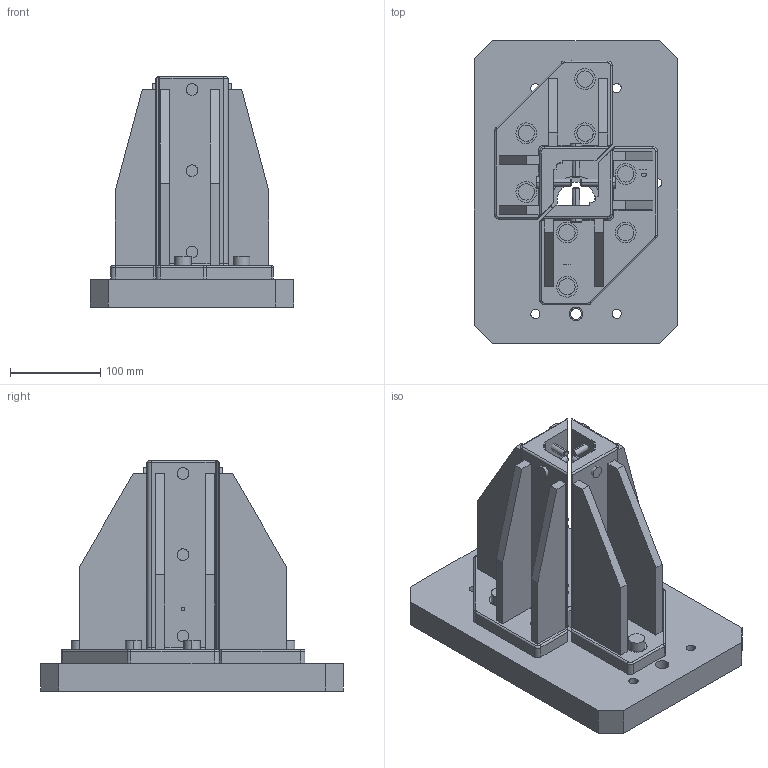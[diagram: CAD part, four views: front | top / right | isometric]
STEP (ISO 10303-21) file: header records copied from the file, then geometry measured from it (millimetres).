
FILE_DESCRIPTION(('STEP AP214'),'1');
FILE_NAME('EGT051_1706186_FLANSCHPLATTE_SW50_SENKRECHT.CATPart.stp','2015-09-14T13:06:07',('3D-Tool'),(' '),'Spatial InterOp 3D',' ',' ');
FILE_SCHEMA(('automotive_design'));
Length unit declared in the file: millimetre
Products named in the file (31): EGT051_1706186_FLANSCHPLATTE_SW50_SENKRECHT|EGT_051_B8_0155_0571208_Flanschplatte_SW50-senkr_3D_$1SET 1.1_Hauptkörper ( _SOL218106 - wsp _MASTER -  )|EGT_051_B8_0155_0571208_Flanschplatte_SW50-senkr_3D_$1SET 1.1_Hauptkörper ( _SOL218106 - wsp _MASTER -  ); EGT051_1706186_FLANSCHPLATTE_SW50_SENKRECHT|EGT_051_B8_0155_0571208_Flanschplatte_SW50-senkr_SET 1.CATProduct__DIT3|EGT_051_B8_0155_0571208_Flanschplatte_SW50-senkr_SET 1.CATProduct__DIT3; EGT051_1706186_FLANSCHPLATTE_SW50_SENKRECHT|EGT_051_B8_0155_0571208_Flanschplatte_SW50-senkr_SET 1.CATProduct__DIT4|EGT_051_B8_0155_0571208_Flanschplatte_SW50-senkr_SET 1.CATProduct__DIT4; EGT051_1706186_FLANSCHPLATTE_SW50_SENKRECHT|EGT_051_B8_0155_0571208_Flanschplatte_SW50-senkr_SET 1.CATProduct__DIT50063|EGT_051_B8_0155_0571208_Flanschplatte_SW50-senkr_SET 1.CATProduct__DIT50063; EGT051_1706186_FLANSCHPLATTE_SW50_SENKRECHT|EGT_051_B8_0155_0571208_Flanschplatte_SW50-senkr_SET 1.CATProduct__DIT50064|EGT_051_B8_0155_0571208_Flanschplatte_SW50-senkr_SET 1.CATProduct__DIT50064; EGT051_1706186_FLANSCHPLATTE_SW50_SENKRECHT|EGT_051_B8_0155_0571208_Flanschplatte_SW50-senkr_SET 1.CATProduct__DIT50065|EGT_051_B8_0155_0571208_Flanschplatte_SW50-senkr_SET 1.CATProduct__DIT50065; EGT051_1706186_FLANSCHPLATTE_SW50_SENKRECHT|EGT_051_B8_0155_0571208_Flanschplatte_SW50-senkr_SET 1.CATProduct__DIT50066|EGT_051_B8_0155_0571208_Flanschplatte_SW50-senkr_SET 1.CATProduct__DIT50066; EGT051_1706186_FLANSCHPLATTE_SW50_SENKRECHT|EGT_051_B8_0155_0571208_Flanschplatte_SW50-senkr_SET 1.CATProduct__DIT50067|EGT_051_B8_0155_0571208_Flanschplatte_SW50-senkr_SET 1.CATProduct__DIT50067; EGT051_1706186_FLANSCHPLATTE_SW50_SENKRECHT|EGT_051_B8_0155_0571208_Flanschplatte_SW50-senkr_SET 1.CATProduct__DIT50068|EGT_051_B8_0155_0571208_Flanschplatte_SW50-senkr_SET 1.CATProduct__DIT50068; EGT051_1706186_FLANSCHPLATTE_SW50_SENKRECHT|EGT_051_B8_0155_0571208_Flanschplatte_SW50-senkr_SET 1.CATProduct__DIT50069|EGT_051_B8_0155_0571208_Flanschplatte_SW50-senkr_SET 1.CATProduct__DIT50069; EGT051_1706186_FLANSCHPLATTE_SW50_SENKRECHT|EGT_051_B8_0155_0571208_Flanschplatte_SW50-senkr_SET 1.CATProduct__DIT50070|EGT_051_B8_0155_0571208_Flanschplatte_SW50-senkr_SET 1.CATProduct__DIT50070; EGT051_1706186_FLANSCHPLATTE_SW50_SENKRECHT|EGT_051_B8_0155_0571208_Flanschplatte_SW50-senkr_SET 1.CATProduct__DIT50089|EGT_051_B8_0155_0571208_Flanschplatte_SW50-senkr_SET 1.CATProduct__DIT50089; EGT051_1706186_FLANSCHPLATTE_SW50_SENKRECHT|EGT_051_B8_0155_0571208_Flanschplatte_SW50-senkr_SET 1.CATProduct__DIT50090|EGT_051_B8_0155_0571208_Flanschplatte_SW50-senkr_SET 1.CATProduct__DIT50090; EGT051_1706186_FLANSCHPLATTE_SW50_SENKRECHT|EGT_051_B8_0155_0571208_Flanschplatte_SW50-senkr_SET 1.CATProduct__DIT50093|EGT_051_B8_0155_0571208_Flanschplatte_SW50-senkr_SET 1.CATProduct__DIT50093; EGT051_1706186_FLANSCHPLATTE_SW50_SENKRECHT|EGT_051_B8_0155_0571208_Flanschplatte_SW50-senkr_SET 1.CATProduct__DIT50094|EGT_051_B8_0155_0571208_Flanschplatte_SW50-senkr_SET 1.CATProduct__DIT50094; EGT051_1706186_FLANSCHPLATTE_SW50_SENKRECHT|EGT_051_B8_0155_0571208_Flanschplatte_SW50-senkr_SET 1.CATProduct__DIT50095|EGT_051_B8_0155_0571208_Flanschplatte_SW50-senkr_SET 1.CATProduct__DIT50095; EGT051_1706186_FLANSCHPLATTE_SW50_SENKRECHT|EGT_051_B8_0155_0571208_Flanschplatte_SW50-senkr_SET 1.CATProduct__DIT50096|EGT_051_B8_0155_0571208_Flanschplatte_SW50-senkr_SET 1.CATProduct__DIT50096; EGT051_1706186_FLANSCHPLATTE_SW50_SENKRECHT|EGT_051_B8_0155_0571208_Flanschplatte_SW50-senkr_SET 1.CATProduct__DIT50097|EGT_051_B8_0155_0571208_Flanschplatte_SW50-senkr_SET 1.CATProduct__DIT50097; EGT051_1706186_FLANSCHPLATTE_SW50_SENKRECHT|EGT_051_B8_0155_0571208_Flanschplatte_SW50-senkr_SET 1.CATProduct__DIT50098|EGT_051_B8_0155_0571208_Flanschplatte_SW50-senkr_SET 1.CATProduct__DIT50098; EGT051_1706186_FLANSCHPLATTE_SW50_SENKRECHT|EGT_051_B8_0155_0571208_Flanschplatte_SW50-senkr_SET 1.CATProduct__DIT50099|EGT_051_B8_0155_0571208_Flanschplatte_SW50-senkr_SET 1.CATProduct__DIT50099; EGT051_1706186_FLANSCHPLATTE_SW50_SENKRECHT|EGT_051_B8_0155_0571208_Flanschplatte_SW50-senkr_SET 1.CATProduct__DIT50100|EGT_051_B8_0155_0571208_Flanschplatte_SW50-senkr_SET 1.CATProduct__DIT50100; EGT051_1706186_FLANSCHPLATTE_SW50_SENKRECHT|EGT_051_B8_0155_0571208_Flanschplatte_SW50-senkr_SET 1.CATProduct__DIT50101|EGT_051_B8_0155_0571208_Flanschplatte_SW50-senkr_SET 1.CATProduct__DIT50101; EGT051_1706186_FLANSCHPLATTE_SW50_SENKRECHT|EGT_051_B8_0155_0571208_Flanschplatte_SW50-senkr_SET 1.CATProduct__DIT50102|EGT_051_B8_0155_0571208_Flanschplatte_SW50-senkr_SET 1.CATProduct__DIT50102; EGT051_1706186_FLANSCHPLATTE_SW50_SENKRECHT|EGT_051_B8_0155_0571208_Flanschplatte_SW50-senkr_SET 1.CATProduct__DIT50103|EGT_051_B8_0155_0571208_Flanschplatte_SW50-senkr_SET 1.CATProduct__DIT50103; EGT051_1706186_FLANSCHPLATTE_SW50_SENKRECHT|EGT_051_B8_0155_0571208_Flanschplatte_SW50-senkr_SET 1.CATProduct__DIT50104|EGT_051_B8_0155_0571208_Flanschplatte_SW50-senkr_SET 1.CATProduct__DIT50104; EGT051_1706186_FLANSCHPLATTE_SW50_SENKRECHT|EGT_051_B8_0155_0571208_Flanschplatte_SW50-senkr_SET 1.CATProduct__DIT50105|EGT_051_B8_0155_0571208_Flanschplatte_SW50-senkr_SET 1.CATProduct__DIT50105; EGT051_1706186_FLANSCHPLATTE_SW50_SENKRECHT|EGT_051_B8_0155_0571208_Flanschplatte_SW50-senkr_SET 1.CATProduct__DIT50106|EGT_051_B8_0155_0571208_Flanschplatte_SW50-senkr_SET 1.CATProduct__DIT50106; 1; 2; EGT051_1706186_FLANSCHPLATTE_SW50_SENKRECHT|EGT_051_B8_0155_0571208_Flanschplatte_SW50-senkr_$2SET 1.CATProduct__DIT50107_Hauptkörper ( _SOL218140 - wsp DIN172-A12_12 -  )|EGT_051_B8_0155_0571208_Flanschplatte_SW50-senkr_$2SET 1.CATProduct__DIT50107_Hauptkörper ( _SOL218140 - wsp DIN172-A12_12 -  ); EGT051_1706186_FLANSCHPLATTE_SW50_SENKRECHT|EGT_051_B8_0155_0571208_Flanschplatte_SW50-senkr_$2SET 1.CATProduct__DIT50108_Hauptkörper ( _SOL218831 - wsp DIN 172 A42_30 -  )|EGT_051_B8_0155_0571208_Flanschplatte_SW50-senkr_$2SET 1.CATProduct__DIT50108_Hauptkörper ( _SOL218831 - wsp DIN 172 A42_30 -  )
Bounding box: 225 x 335 x 255 mm (x, y, z)
Volume: 4298687.6 mm3; surface area: 617163.1 mm2
Topology: 29 solids, 31 shells, 632 faces, 1551 edges, 1016 vertices
Faces by surface type: cylinder 310, plane 218, cone 48, torus 24, sphere 20, bspline 12
Full cylindrical faces by diameter (mm): 6 x2
Entity records: 24055 total; most frequent: CARTESIAN_POINT 7247, ORIENTED_EDGE 3028, EDGE_CURVE 1514, DIRECTION 1322, VERTEX_POINT 1020, EDGE_LOOP 764, B_SPLINE_CURVE_WITH_KNOTS 681, STYLED_ITEM 663
